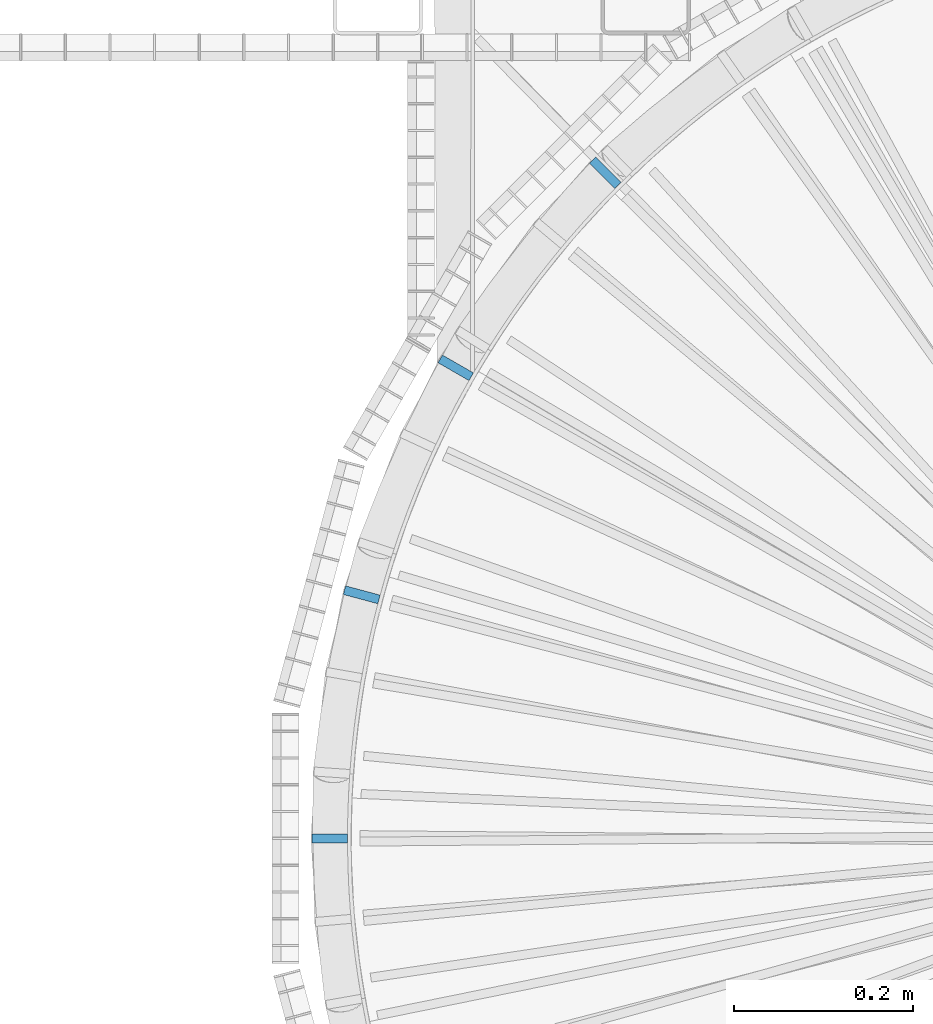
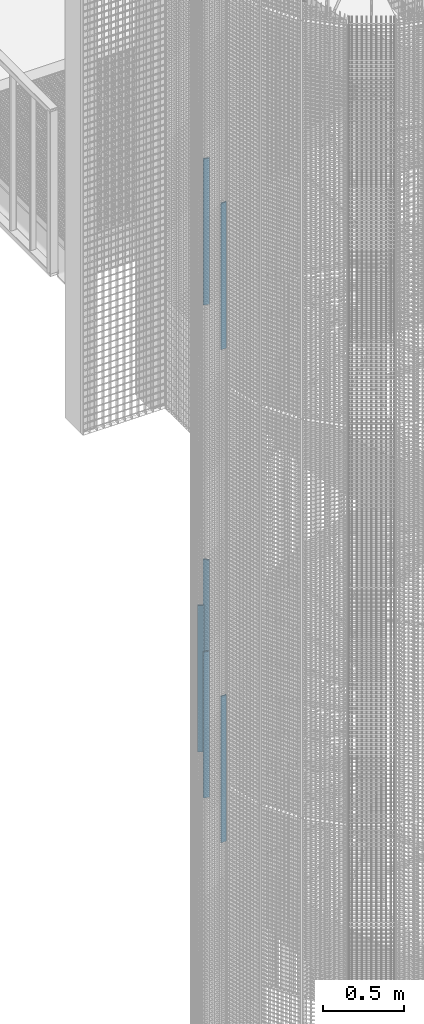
# One storey, part 47 of 1148: 6 columns, 6 elements without a shape of their own.
"""IFC2X3 building model written with IfcOpenShell, lengths in millimetres."""

from ifc_helpers import new_model, si_unit, frame, origin_with_axes, origin_2d_with_axis, place, context, subcontext, project, spatial, rectangle, extrude, material, type_object, element, aggregate, save


model = new_model("IFC2X3")

# Units and contexts
model_context = context("Model", 3, precision=1e-05, world=origin_with_axes())
body_context = subcontext(model_context, "Body", "Model", "MODEL_VIEW")
ifc_project = project(units=[si_unit("LENGTHUNIT", "METRE", prefix="MILLI"), si_unit("AREAUNIT", "SQUARE_METRE"), si_unit("VOLUMEUNIT", "CUBIC_METRE"), si_unit("MASSUNIT", "GRAM", prefix="KILO"), si_unit("TIMEUNIT", "SECOND"), si_unit("PLANEANGLEUNIT", "RADIAN"), si_unit("SOLIDANGLEUNIT", "STERADIAN"), si_unit("THERMODYNAMICTEMPERATUREUNIT", "DEGREE_CELSIUS"), si_unit("LUMINOUSINTENSITYUNIT", "LUMEN")], contexts=[model_context])

# Site, building, storey
site_placement = place(None, origin_with_axes())
site = spatial("IfcSite", under=ifc_project, at=site_placement, Name="Undefined", CompositionType="ELEMENT")
building_placement = place(site_placement, origin_with_axes())
building = spatial("IfcBuilding", under=site, at=building_placement, Name="Undefined", CompositionType="ELEMENT")
storey_placement = place(building_placement, origin_with_axes())
storey = spatial("IfcBuildingStorey", under=building, at=storey_placement, Name="Undefined", CompositionType="ELEMENT", Elevation=0.0)

# Assembly, column
assembly_1_placement = place(storey_placement, origin_with_axes())
assembly_1 = element("IfcElementAssembly", 1, at=assembly_1_placement, inside=storey, Name="MONTANT", AssemblyPlace="NOTDEFINED", PredefinedType="NOTDEFINED")
ifc_material = material(Name="STEEL/S235JR")
column_type = type_object("IfcColumnType", Name="PL10*40", PredefinedType="NOTDEFINED")
column_1_placement = place(assembly_1_placement, frame((20687.2092244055, 527.000000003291, 2781.36), z_axis=(0.0, 0.0, 1.0), x_axis=(0.866025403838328, -0.49999999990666, 0.0)))
column_1 = element("IfcColumn", 2, at=column_1_placement, type_object=column_type, material=ifc_material, Name="MONTANT", context=body_context, shape_type="SweptSolid", body=[
    extrude(rectangle(XDim=10.0, YDim=40.0, at=origin_2d_with_axis()), frame((0.0, 0.0, 1100.0), z_axis=(0.0, 0.0, -1.0), x_axis=(0.0, 1.0, 0.0)), (0.0, 0.0, 1.0), 1100.0),
])
aggregate(assembly_1, [column_1])

assembly_2_placement = place(storey_placement, origin_with_axes())
assembly_2 = element("IfcElementAssembly", 3, at=assembly_2_placement, inside=storey, Name="MONTANT", AssemblyPlace="NOTDEFINED", PredefinedType="NOTDEFINED")
column_2_placement = place(assembly_2_placement, frame((20545.9999999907, -4.09272615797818e-12, 2472.32), z_axis=(0.0, 0.0, 1.0), x_axis=(1.0, 0.0, 0.0)))
column_2 = element("IfcColumn", 4, at=column_2_placement, type_object=column_type, material=ifc_material, Name="MONTANT", context=body_context, shape_type="SweptSolid", body=[
    extrude(rectangle(XDim=10.0, YDim=40.0, at=origin_2d_with_axis()), frame((0.0, 0.0, 1100.0), z_axis=(0.0, 0.0, -1.0), x_axis=(0.0, 1.0, 0.0)), (0.0, 0.0, 1.0), 1100.0),
])
aggregate(assembly_2, [column_2])

assembly_3_placement = place(storey_placement, origin_with_axes())
assembly_3 = element("IfcElementAssembly", 5, at=assembly_3_placement, inside=storey, Name="MONTANT", AssemblyPlace="NOTDEFINED", PredefinedType="NOTDEFINED")
column_3_placement = place(assembly_3_placement, frame((20581.9141790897, 272.795273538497, 2626.84), z_axis=(0.0, 0.0, 1.0), x_axis=(0.965925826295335, -0.258819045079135, 0.0)))
column_3 = element("IfcColumn", 6, at=column_3_placement, type_object=column_type, material=ifc_material, Name="MONTANT", context=body_context, shape_type="SweptSolid", body=[
    extrude(rectangle(XDim=10.0, YDim=40.0, at=origin_2d_with_axis()), frame((0.0, 0.0, 1100.0), z_axis=(0.0, 0.0, -1.0), x_axis=(0.0, 1.0, 0.0)), (0.0, 0.0, 1.0), 1100.0),
])
aggregate(assembly_3, [column_3])

assembly_4_placement = place(storey_placement, origin_with_axes())
assembly_4 = element("IfcElementAssembly", 7, at=assembly_4_placement, inside=storey, Name="MONTANT", AssemblyPlace="NOTDEFINED", PredefinedType="NOTDEFINED")
column_4_placement = place(assembly_4_placement, frame((20581.9141790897, 272.795273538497, 6335.32000000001), z_axis=(0.0, 0.0, 1.0), x_axis=(0.965925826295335, -0.258819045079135, 0.0)))
column_4 = element("IfcColumn", 8, at=column_4_placement, type_object=column_type, material=ifc_material, Name="MONTANT", context=body_context, shape_type="SweptSolid", body=[
    extrude(rectangle(XDim=10.0, YDim=40.0, at=origin_2d_with_axis()), frame((0.0, 0.0, 1100.0), z_axis=(0.0, 0.0, -1.0), x_axis=(0.0, 1.0, 0.0)), (0.0, 0.0, 1.0), 1100.0),
])
aggregate(assembly_4, [column_4])

assembly_5_placement = place(storey_placement, origin_with_axes())
assembly_5 = element("IfcElementAssembly", 9, at=assembly_5_placement, inside=storey, Name="MONTANT", AssemblyPlace="NOTDEFINED", PredefinedType="NOTDEFINED")
column_5_placement = place(assembly_5_placement, frame((20854.7094526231, 745.290547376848, 2935.88), z_axis=(0.0, 0.0, 1.0), x_axis=(0.707106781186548, -0.707106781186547, 0.0)))
column_5 = element("IfcColumn", 10, at=column_5_placement, type_object=column_type, material=ifc_material, Name="MONTANT", context=body_context, shape_type="SweptSolid", body=[
    extrude(rectangle(XDim=10.0, YDim=40.0, at=origin_2d_with_axis()), frame((0.0, 0.0, 1100.0), z_axis=(0.0, 0.0, -1.0), x_axis=(0.0, 1.0, 0.0)), (0.0, 0.0, 1.0), 1100.0),
])
aggregate(assembly_5, [column_5])

assembly_6_placement = place(storey_placement, origin_with_axes())
assembly_6 = element("IfcElementAssembly", 11, at=assembly_6_placement, inside=storey, Name="MONTANT", AssemblyPlace="NOTDEFINED", PredefinedType="NOTDEFINED")
column_6_placement = place(assembly_6_placement, frame((20545.9999999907, -4.09272615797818e-12, 6180.80000000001), z_axis=(0.0, 0.0, 1.0), x_axis=(1.0, 0.0, 0.0)))
column_6 = element("IfcColumn", 12, at=column_6_placement, type_object=column_type, material=ifc_material, Name="MONTANT", context=body_context, shape_type="SweptSolid", body=[
    extrude(rectangle(XDim=10.0, YDim=40.0, at=origin_2d_with_axis()), frame((0.0, 0.0, 1100.0), z_axis=(0.0, 0.0, -1.0), x_axis=(0.0, 1.0, 0.0)), (0.0, 0.0, 1.0), 1100.0),
])
aggregate(assembly_6, [column_6])

save(model, "model.ifc")
